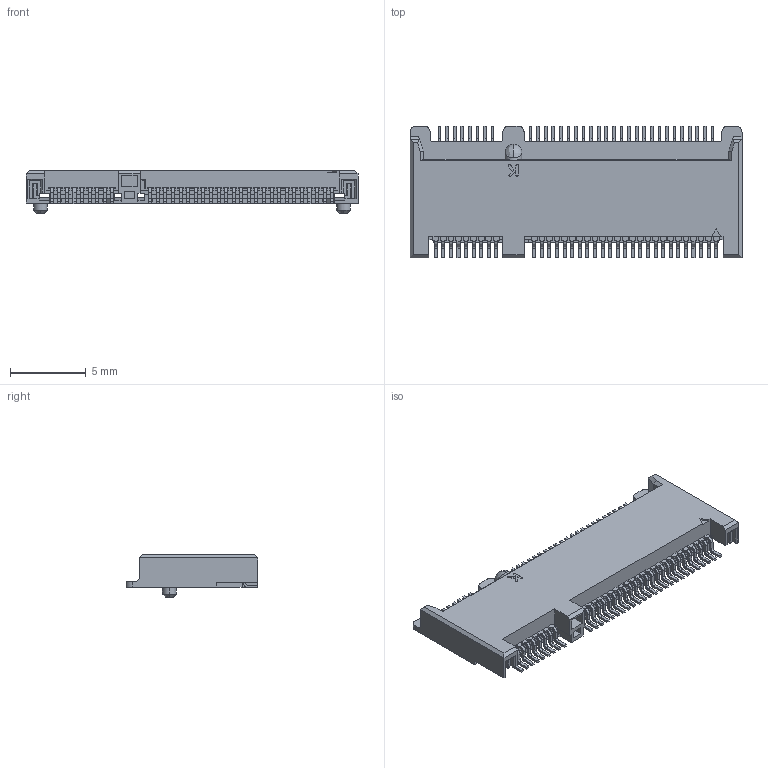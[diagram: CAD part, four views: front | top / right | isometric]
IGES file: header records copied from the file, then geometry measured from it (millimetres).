
Start section: SolidWorks IGES file using analytic representation for surfaces
Global section: file name: Q:\Kamikawa_Hisako\170121\MK\H2.3_101\20_6411_067_101_894_K.IGS; native system: SolidWorks 2014; preprocessor: SolidWorks 2014; author: 151066016; date: 170125.095245; units: millimetre
Bounding box: 21.9 x 8.7 x 2.82 mm (x, y, z)
Surface area: 664.1 mm2 (no closed solid volume)
Topology: 0 solids, 0 shells, 1979 faces, 13085 edges, 13083 vertices
Faces by surface type: bspline 1489, revolution 490
